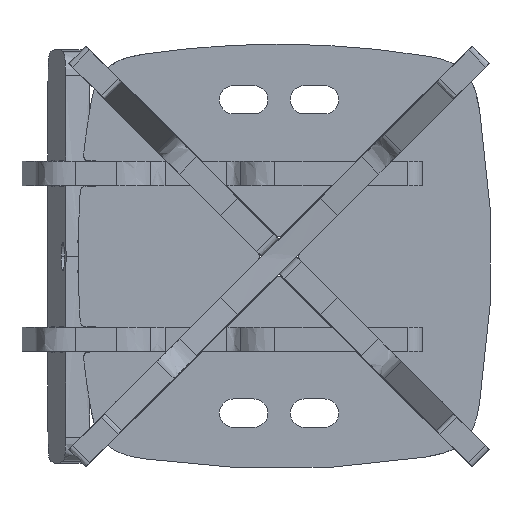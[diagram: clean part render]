
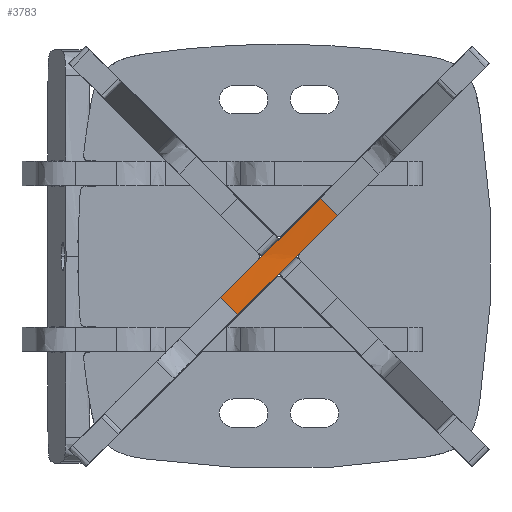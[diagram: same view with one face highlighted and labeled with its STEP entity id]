
A CAD part, front view. The second image highlights one B-rep face of the part: STEP entity #3783.
In plain terms, the highlighted free-form (B-spline) face has degree [5, 3] with [8, 4] control points.
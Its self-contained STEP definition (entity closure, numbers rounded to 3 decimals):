
#239 = ORIENTED_EDGE ( 'NONE', *, *, #992, .T. ) ;
#322 = CARTESIAN_POINT ( 'NONE',  ( 46.497, 351.122, 52.154 ) ) ;
#992 = EDGE_CURVE ( 'NONE', #21872, #8726, #5496, .T. ) ;
#1033 = CARTESIAN_POINT ( 'NONE',  ( -43.478, 352.036, -36.689 ) ) ;
#1192 = CARTESIAN_POINT ( 'NONE',  ( 50.266, 352.036, 29.901 ) ) ;
#1675 = ORIENTED_EDGE ( 'NONE', *, *, #10236, .T. ) ;
#2155 = CARTESIAN_POINT ( 'NONE',  ( 57.811, 351.122, 40.84 ) ) ;
#2649 = CARTESIAN_POINT ( 'NONE',  ( 1.6, 354.292, -15.37 ) ) ;
#2721 = CARTESIAN_POINT ( 'NONE',  ( -6.886, 354.575, -13.675 ) ) ;
#2746 = CARTESIAN_POINT ( 'NONE',  ( 16.971, 354.059, 0. ) ) ;
#2806 = CARTESIAN_POINT ( 'NONE',  ( -13.675, 354.575, -6.886 ) ) ;
#2950 = CARTESIAN_POINT ( 'NONE',  ( 52.719, 351.122, 45.931 ) ) ;
#3335 = EDGE_LOOP ( 'NONE', ( #10158, #1675, #18942, #14144, #239, #8188 ) ) ;
#3638 = CARTESIAN_POINT ( 'NONE',  ( 40.84, 351.122, 57.811 ) ) ;
#3783 = ADVANCED_FACE ( 'NONE', ( #9679 ), #13993, .T. ) ;
#4358 = CARTESIAN_POINT ( 'NONE',  ( -31.598, 352.036, -48.569 ) ) ;
#4472 = CARTESIAN_POINT ( 'NONE',  ( 57.811, 351.122, 40.84 ) ) ;
#4583 = CARTESIAN_POINT ( 'NONE',  ( -0.098, 354.575, -20.463 ) ) ;
#4745 = CARTESIAN_POINT ( 'NONE',  ( -34.236, 352.95, -27.448 ) ) ;
#4980 = CARTESIAN_POINT ( 'NONE',  ( -57.811, 351.122, -40.84 ) ) ;
#5496 = B_SPLINE_CURVE_WITH_KNOTS ( 'NONE', 5,
 ( #7928, #16613, #11373, #6158, #18364, #4472 ),
 .UNSPECIFIED., .F., .F.,
 ( 6, 6 ),
 ( 0.583, 1. ),
 .UNSPECIFIED. ) ;
#5699 = CARTESIAN_POINT ( 'NONE',  ( 52.154, 351.122, 46.497 ) ) ;
#5824 = CARTESIAN_POINT ( 'NONE',  ( 40.84, 351.122, 57.811 ) ) ;
#6158 = CARTESIAN_POINT ( 'NONE',  ( 42.379, 352.648, 25.409 ) ) ;
#6163 = B_SPLINE_CURVE_WITH_KNOTS ( 'NONE', 5,
 ( #6680, #17134, #6743, #6522, #18724, #4980 ),
 .UNSPECIFIED., .F., .F.,
 ( 6, 6 ),
 ( 0., 1. ),
 .UNSPECIFIED. ) ;
#6202 = CARTESIAN_POINT ( 'NONE',  ( 27.448, 352.95, 34.236 ) ) ;
#6207 = CARTESIAN_POINT ( 'NONE',  ( 16.971, 354.059, 0. ) ) ;
#6358 = CARTESIAN_POINT ( 'NONE',  ( 34.236, 352.95, 27.448 ) ) ;
#6499 = CARTESIAN_POINT ( 'NONE',  ( 20.463, 354.575, 0.098 ) ) ;
#6522 = CARTESIAN_POINT ( 'NONE',  ( -42.379, 352.648, -25.409 ) ) ;
#6680 = CARTESIAN_POINT ( 'NONE',  ( -16.971, 354.059, 0. ) ) ;
#6743 = CARTESIAN_POINT ( 'NONE',  ( -34.059, 353.352, -17.089 ) ) ;
#7928 = CARTESIAN_POINT ( 'NONE',  ( 16.971, 354.059, 0. ) ) ;
#8138 = CARTESIAN_POINT ( 'NONE',  ( 43.478, 352.036, 36.689 ) ) ;
#8188 = ORIENTED_EDGE ( 'NONE', *, *, #14745, .F. ) ;
#8210 = CARTESIAN_POINT ( 'NONE',  ( -20.463, 354.575, -0.098 ) ) ;
#8292 = CARTESIAN_POINT ( 'NONE',  ( -29.901, 352.036, -50.266 ) ) ;
#8539 = CARTESIAN_POINT ( 'NONE',  ( -46.497, 351.122, -52.154 ) ) ;
#8726 = VERTEX_POINT ( 'NONE', #19573 ) ;
#8974 = CARTESIAN_POINT ( 'NONE',  ( -57.811, 351.122, -40.84 ) ) ;
#9155 = CARTESIAN_POINT ( 'NONE',  ( 10.378, 353.897, 27.349 ) ) ;
#9193 = CARTESIAN_POINT ( 'NONE',  ( 40.84, 351.122, 57.811 ) ) ;
#9228 = CARTESIAN_POINT ( 'NONE',  ( 22.357, 352.95, 39.327 ) ) ;
#9300 = CARTESIAN_POINT ( 'NONE',  ( 31.598, 352.036, 48.569 ) ) ;
#9679 = FACE_OUTER_BOUND ( 'NONE', #3335, .T. ) ;
#9760 = CARTESIAN_POINT ( 'NONE',  ( -22.357, 352.95, -39.327 ) ) ;
#9819 = CARTESIAN_POINT ( 'NONE',  ( -27.448, 352.95, -34.236 ) ) ;
#9902 = CARTESIAN_POINT ( 'NONE',  ( 39.143, 351.122, 59.508 ) ) ;
#9973 = CARTESIAN_POINT ( 'NONE',  ( 20.659, 352.95, 41.024 ) ) ;
#10158 = ORIENTED_EDGE ( 'NONE', *, *, #13022, .T. ) ;
#10236 = EDGE_CURVE ( 'NONE', #17876, #19409, #6163, .T. ) ;
#10891 = CARTESIAN_POINT ( 'NONE',  ( -16.971, 354.059, 0. ) ) ;
#11045 = CARTESIAN_POINT ( 'NONE',  ( -40.84, 351.122, -57.811 ) ) ;
#11373 = CARTESIAN_POINT ( 'NONE',  ( 34.059, 353.352, 17.089 ) ) ;
#11481 = CARTESIAN_POINT ( 'NONE',  ( 45.931, 351.122, 52.719 ) ) ;
#11566 = CARTESIAN_POINT ( 'NONE',  ( 41.024, 352.95, 20.659 ) ) ;
#11572 = CARTESIAN_POINT ( 'NONE',  ( 15.276, 354.102, -1.695 ) ) ;
#11963 = EDGE_CURVE ( 'NONE', #14467, #21872, #22283, .T. ) ;
#12713 = CARTESIAN_POINT ( 'NONE',  ( -15.276, 354.102, 1.695 ) ) ;
#13022 = EDGE_CURVE ( 'NONE', #14864, #17876, #17025, .T. ) ;
#13225 = CARTESIAN_POINT ( 'NONE',  ( -41.024, 352.95, -20.659 ) ) ;
#13439 = CARTESIAN_POINT ( 'NONE',  ( 29.901, 352.036, 50.266 ) ) ;
#13696 = CARTESIAN_POINT ( 'NONE',  ( -40.84, 351.122, -57.811 ) ) ;
#13993 = B_SPLINE_SURFACE_WITH_KNOTS ( 'NONE', 5, 3, ( 
 ( #14530, #20245, #18629, #16749 ),
 ( #8292, #15053, #1033, #16661 ),
 ( #22011, #9819, #4745, #13225 ),
 ( #4583, #2721, #2806, #8210 ),
 ( #6499, #16824, #20398, #18545 ),
 ( #11566, #6358, #6202, #9973 ),
 ( #1192, #8138, #18704, #13439 ),
 ( #20331, #2950, #11481, #9902 ) ),
 .UNSPECIFIED., .F., .F., .F.,
 ( 6, 2, 6 ),
 ( 4, 4 ),
 ( 0., 0.5, 1. ),
 ( -0.002, 0.026 ),
 .UNSPECIFIED. ) ;
#14062 = CARTESIAN_POINT ( 'NONE',  ( -52.154, 351.122, -46.497 ) ) ;
#14144 = ORIENTED_EDGE ( 'NONE', *, *, #11963, .T. ) ;
#14467 = VERTEX_POINT ( 'NONE', #11045 ) ;
#14530 = CARTESIAN_POINT ( 'NONE',  ( -39.143, 351.122, -59.508 ) ) ;
#14677 = CARTESIAN_POINT ( 'NONE',  ( 13.579, 354.135, -3.392 ) ) ;
#14745 = EDGE_CURVE ( 'NONE', #14864, #8726, #20224, .T. ) ;
#14864 = VERTEX_POINT ( 'NONE', #3638 ) ;
#15053 = CARTESIAN_POINT ( 'NONE',  ( -36.689, 352.036, -43.478 ) ) ;
#15966 = B_SPLINE_CURVE_WITH_KNOTS ( 'NONE', 3,
 ( #13696, #8539, #14062, #8974 ),
 .UNSPECIFIED., .F., .F.,
 ( 4, 4 ),
 ( 0., 1. ),
 .UNSPECIFIED. ) ;
#16305 = CARTESIAN_POINT ( 'NONE',  ( -1.6, 354.292, 15.37 ) ) ;
#16591 = CARTESIAN_POINT ( 'NONE',  ( -40.84, 351.122, -57.811 ) ) ;
#16613 = CARTESIAN_POINT ( 'NONE',  ( 25.54, 353.839, 8.569 ) ) ;
#16661 = CARTESIAN_POINT ( 'NONE',  ( -50.266, 352.036, -29.901 ) ) ;
#16749 = CARTESIAN_POINT ( 'NONE',  ( -59.508, 351.122, -39.143 ) ) ;
#16824 = CARTESIAN_POINT ( 'NONE',  ( 13.675, 354.575, 6.886 ) ) ;
#17025 = B_SPLINE_CURVE_WITH_KNOTS ( 'NONE', 5,
 ( #5824, #9300, #9228, #9155, #16305, #21481, #12713, #10891 ),
 .UNSPECIFIED., .F., .F.,
 ( 6, 2, 6 ),
 ( 0., 0.5, 0.583 ),
 .UNSPECIFIED. ) ;
#17134 = CARTESIAN_POINT ( 'NONE',  ( -25.54, 353.839, -8.569 ) ) ;
#17876 = VERTEX_POINT ( 'NONE', #20847 ) ;
#18339 = CARTESIAN_POINT ( 'NONE',  ( -10.378, 353.897, -27.349 ) ) ;
#18364 = CARTESIAN_POINT ( 'NONE',  ( 50.095, 351.885, 33.124 ) ) ;
#18545 = CARTESIAN_POINT ( 'NONE',  ( 0.098, 354.575, 20.463 ) ) ;
#18629 = CARTESIAN_POINT ( 'NONE',  ( -52.719, 351.122, -45.931 ) ) ;
#18704 = CARTESIAN_POINT ( 'NONE',  ( 36.689, 352.036, 43.478 ) ) ;
#18724 = CARTESIAN_POINT ( 'NONE',  ( -50.095, 351.885, -33.124 ) ) ;
#18942 = ORIENTED_EDGE ( 'NONE', *, *, #19021, .F. ) ;
#19021 = EDGE_CURVE ( 'NONE', #14467, #19409, #15966, .T. ) ;
#19409 = VERTEX_POINT ( 'NONE', #19711 ) ;
#19573 = CARTESIAN_POINT ( 'NONE',  ( 57.811, 351.122, 40.84 ) ) ;
#19711 = CARTESIAN_POINT ( 'NONE',  ( -57.811, 351.122, -40.84 ) ) ;
#20224 = B_SPLINE_CURVE_WITH_KNOTS ( 'NONE', 3,
 ( #9193, #322, #5699, #2155 ),
 .UNSPECIFIED., .F., .F.,
 ( 4, 4 ),
 ( 0., 1. ),
 .UNSPECIFIED. ) ;
#20245 = CARTESIAN_POINT ( 'NONE',  ( -45.931, 351.122, -52.719 ) ) ;
#20331 = CARTESIAN_POINT ( 'NONE',  ( 59.508, 351.122, 39.143 ) ) ;
#20398 = CARTESIAN_POINT ( 'NONE',  ( 6.886, 354.575, 13.675 ) ) ;
#20847 = CARTESIAN_POINT ( 'NONE',  ( -16.971, 354.059, 0. ) ) ;
#21481 = CARTESIAN_POINT ( 'NONE',  ( -13.579, 354.135, 3.392 ) ) ;
#21872 = VERTEX_POINT ( 'NONE', #2746 ) ;
#22011 = CARTESIAN_POINT ( 'NONE',  ( -20.659, 352.95, -41.024 ) ) ;
#22283 = B_SPLINE_CURVE_WITH_KNOTS ( 'NONE', 5,
 ( #16591, #4358, #9760, #18339, #2649, #14677, #11572, #6207 ),
 .UNSPECIFIED., .F., .F.,
 ( 6, 2, 6 ),
 ( 0., 0.858, 1. ),
 .UNSPECIFIED. ) ;
